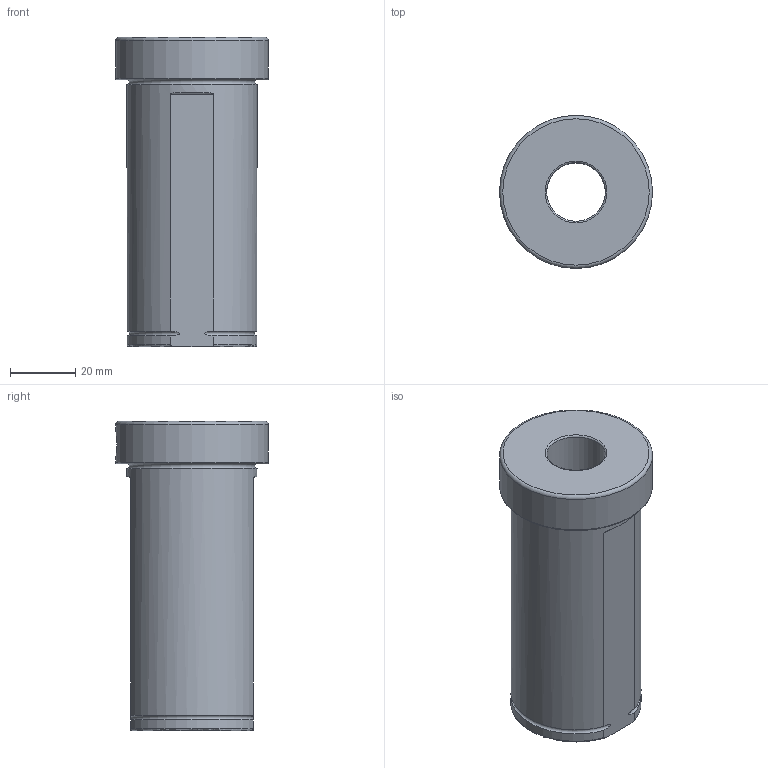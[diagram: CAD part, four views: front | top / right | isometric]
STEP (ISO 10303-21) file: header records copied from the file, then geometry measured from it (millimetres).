
FILE_DESCRIPTION(/* description */ (''),/* implementation_level */ '2;1');
FILE_NAME(/* name */ '',/* time_stamp */ '2025-04-15T13:09:38+03:00',/* author */ ('User'),/* organization */ (''),/* preprocessor_version */ 'ST-DEVELOPER v19.2',/* originating_system */ 'Autodesk Inventor 2024',/* authorisation */ '');
FILE_SCHEMA (('AUTOMOTIVE_DESIGN { 1 0 10303 214 3 1 1 }'));
Length unit declared in the file: millimetre
Products named in the file (1): Втулка переходная 
D40-d6
Bounding box: 47 x 47 x 95 mm (x, y, z)
Volume: 89194.1 mm3; surface area: 22357.2 mm2
Topology: 1 solids, 1 shells, 69 faces, 159 edges, 106 vertices
Faces by surface type: plane 39, cylinder 18, torus 11, bspline 1
Full cylindrical faces by diameter (mm): 7 x3, 7.2 x3, 8 x3, 18 x1, 25 x1, 26 x1, 40 x1, 47 x1
Entity records: 2341 total; most frequent: CARTESIAN_POINT 633, DIRECTION 339, ORIENTED_EDGE 318, EDGE_CURVE 159, AXIS2_PLACEMENT_3D 128, VERTEX_POINT 106, EDGE_LOOP 85, LINE 83
